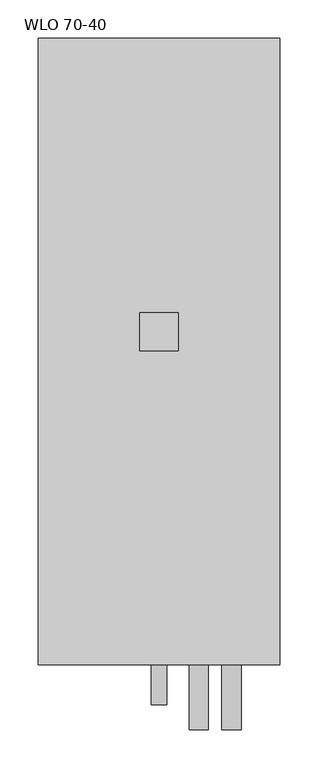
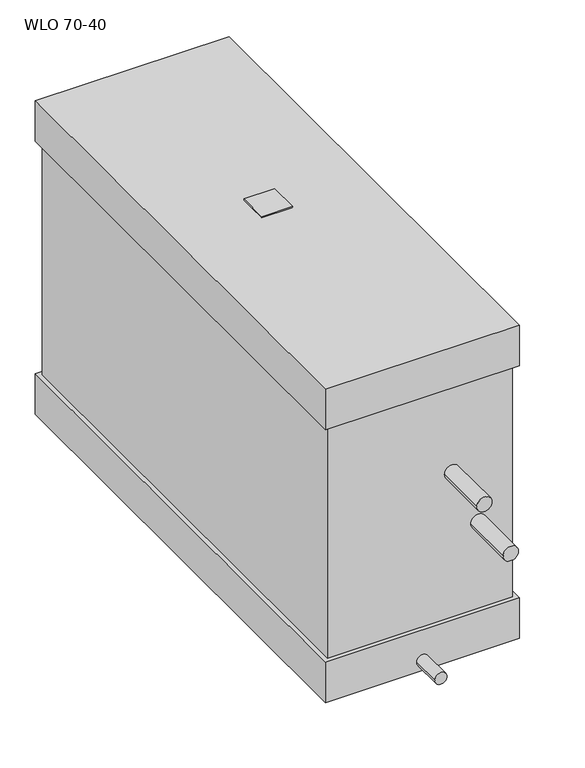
"""IFC4 building model written with IfcOpenShell, lengths in millimetres: proxy geometry, KORF_Воздухоохладитель_Водяной_WLO_Левый : WLO 70-40."""

from ifc_helpers import new_model, si_unit, point, frame, frame_2d, origin, place, context, project, spatial, polyline, circle_curve, trimmed, segment, composite_curve, outline, extrude, faceted_brep, source, transform, mapped, element, save


def wlo_70_40_d1fca8c2(model_context):
    return source(origin(), model_context, "Body", "SolidModel", [
        extrude(outline(polyline([(133.0, -25.0), (133.0, 25.0), (183.0, 25.0), (183.0, -25.0), (133.0, -25.0)])), frame((0.0, 0.0, 270.0), z_axis=(0.0, 0.0, 1.0), x_axis=(1.0, 0.0, 0.0)), (0.0, 0.0, 1.0), 2.0),
        faceted_brep([(316.0, -436.0, 270.0), (316.0, -436.0, 200.0), (316.0, 384.0, 200.0), (316.0, 384.0, 270.0), (316.0, -436.0, -200.0), (316.0, -436.0, -270.0), (316.0, 384.0, -270.0), (316.0, 384.0, -200.0), (0.0, -436.0, 270.0), (0.0, 384.0, 270.0), (0.0, 384.0, 200.0), (0.0, -436.0, 200.0), (0.0, -436.0, -200.0), (0.0, 384.0, -200.0), (0.0, 384.0, -270.0), (0.0, -436.0, -270.0), (7.0, -429.0, 200.0), (309.0, -429.0, 200.0), (309.0, -350.0, 200.0), (309.0, 350.0, 200.0), (309.0, 377.0, 200.0), (7.0, 377.0, 200.0), (7.0, 350.0, 200.0), (7.0, -350.0, 200.0), (309.0, -429.0, -200.0), (7.0, -429.0, -200.0), (7.0, -350.0, -200.0), (7.0, 350.0, -200.0), (7.0, 377.0, -200.0), (309.0, 377.0, -200.0), (309.0, 350.0, -200.0), (309.0, -350.0, -200.0)], [[[0, 1, 2, 3]], [[4, 5, 6, 7]], [[8, 9, 10, 11]], [[12, 13, 14, 15]], [[1, 0, 8, 11]], [[2, 1, 11, 10], [16, 17, 18, 19, 20, 21, 22, 23]], [[3, 2, 10, 9]], [[0, 3, 9, 8]], [[5, 4, 12, 15]], [[6, 5, 15, 14]], [[7, 6, 14, 13]], [[4, 7, 13, 12], [24, 25, 26, 27, 28, 29, 30, 31]], [[17, 24, 31, 30, 29, 20, 19, 18]], [[21, 28, 27, 26, 25, 16, 23, 22]], [[24, 17, 16, 25]], [[20, 29, 28, 21]]]),
        extrude(outline(composite_curve([segment(trimmed(circle_curve(frame_2d((50.0, 210.0)), 12.5), [point((50.0, 197.5))], [point((50.0, 222.5))], False, "CARTESIAN"), True, "CONTINUOUS"), segment(trimmed(circle_curve(frame_2d((50.0, 210.0)), 12.5), [point((50.0, 222.5))], [point((50.0, 197.5))], False, "CARTESIAN"), True, "CONTINUOUS")], self_intersect=False)), frame((0.0, -521.0, 0.0), z_axis=(0.0, 1.0, 0.0), x_axis=(0.0, 0.0, 1.0)), (0.0, 0.0, 1.0), 92.0),
        extrude(outline(composite_curve([segment(trimmed(circle_curve(frame_2d((-50.0, 253.0)), 12.5), [point((-50.0, 240.5))], [point((-50.0, 265.5))], False, "CARTESIAN"), True, "CONTINUOUS"), segment(trimmed(circle_curve(frame_2d((-50.0, 253.0)), 12.5), [point((-50.0, 265.5))], [point((-50.0, 240.5))], False, "CARTESIAN"), True, "CONTINUOUS")], self_intersect=False)), frame((0.0, -521.0, 0.0), z_axis=(0.0, 1.0, 0.0), x_axis=(0.0, 0.0, 1.0)), (0.0, 0.0, 1.0), 92.0),
        extrude(outline(composite_curve([segment(trimmed(circle_curve(frame_2d((-252.0, 158.0)), 10.0), [point((-252.0, 148.0))], [point((-252.0, 168.0))], False, "CARTESIAN"), True, "CONTINUOUS"), segment(trimmed(circle_curve(frame_2d((-252.0, 158.0)), 10.0), [point((-252.0, 168.0))], [point((-252.0, 148.0))], False, "CARTESIAN"), True, "CONTINUOUS")], self_intersect=False)), frame((0.0, -488.0, 0.0), z_axis=(0.0, 1.0, 0.0), x_axis=(0.0, 0.0, 1.0)), (0.0, 0.0, 1.0), 52.0),
    ])


if __name__ == "__main__":
    model = new_model("IFC4")
    model_context = context("Model", 3, world=origin())
    ifc_project = project(units=[si_unit("LENGTHUNIT", "METRE", prefix="MILLI")], contexts=[model_context])
    site = spatial("IfcSite", under=ifc_project)
    building = spatial("IfcBuilding", under=site)
    placement = place(None, origin())
    wlo_70_40_shape = wlo_70_40_d1fca8c2(model_context)
    element("IfcBuildingElementProxy", 1, Name="KORF_Воздухоохладитель_Водяной_WLO_Левый : WLO 70-40", ObjectType="KORF_Воздухоохладитель_Водяной_WLO_Левый : WLO 70-40", at=placement, inside=building, context=model_context, shape_type="MappedRepresentation", body=[
        mapped(wlo_70_40_shape, transform((0.0, 0.0, 0.0), x_axis=(1.0, 0.0, 0.0), y_axis=(0.0, 1.0, 0.0), z_axis=(0.0, 0.0, 1.0))),
    ])
    save(model, "model.ifc")
